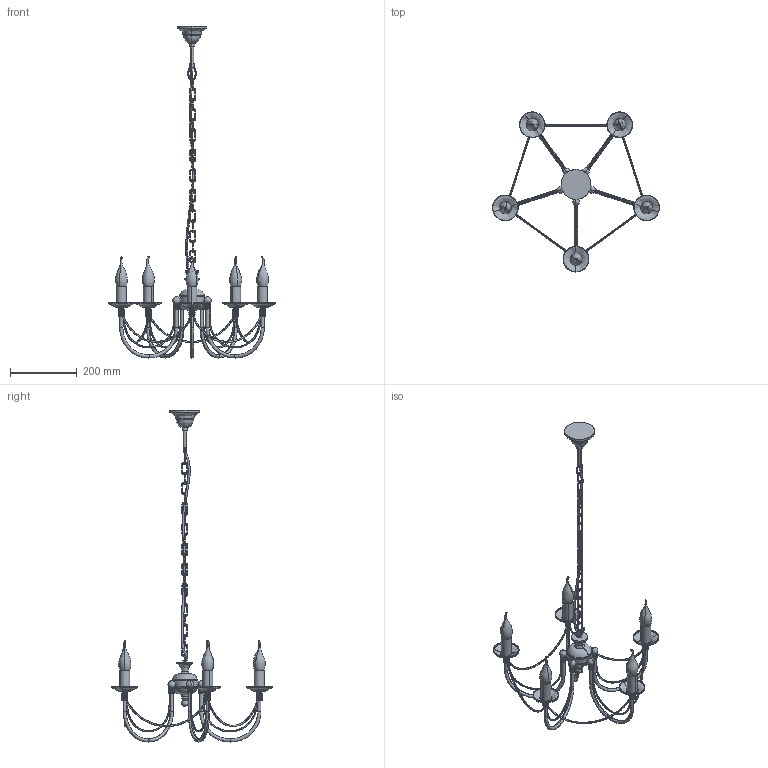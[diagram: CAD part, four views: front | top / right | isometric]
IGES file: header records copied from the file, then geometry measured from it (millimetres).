
Start section: SolidWorks IGES file using analytic representation for surfaces
Global section: file name: C:\Users\anna.bielnik\Desktop\modele 3D tymczasowe\ARES\ARES-205\ARES-205.IGS; native system: SolidWorks 2023; preprocessor: SolidWorks 2023; author: anna.bielnik; date: 230808.132126; units: millimetre
Bounding box: 501.82 x 481.04 x 997.81 mm (x, y, z)
Surface area: 360252.6 mm2 (no closed solid volume)
Topology: 0 solids, 0 shells, 758 faces, 10381 edges, 10374 vertices
Faces by surface type: bspline 445, revolution 313
